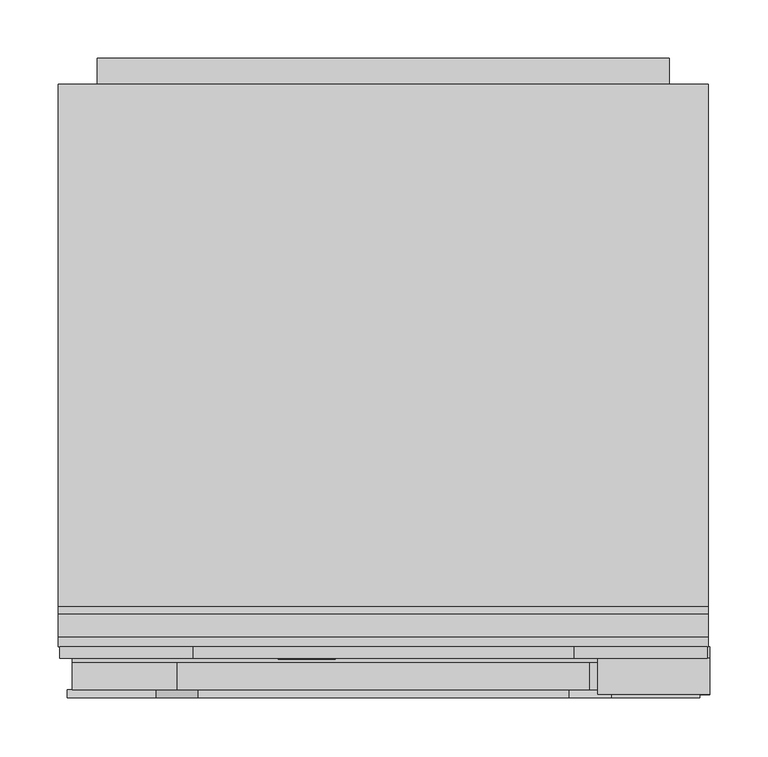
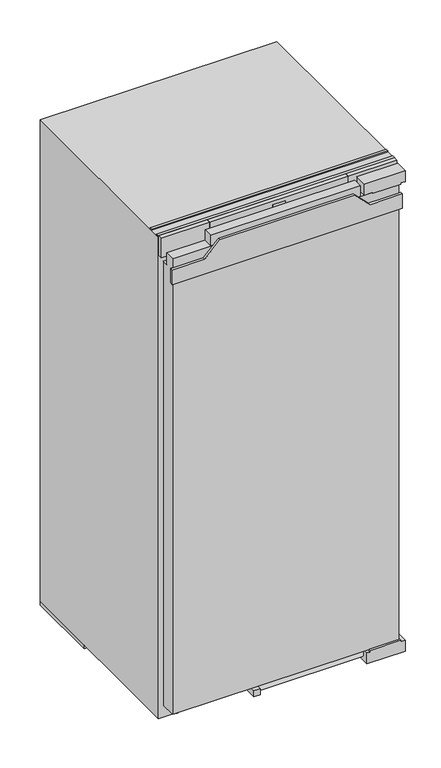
"""IFC4 building model written with IfcOpenShell, lengths in millimetres: proxy geometry, 12443730_EU1_K7347C : 36734700_EU1_12443730_K7347C."""

from ifc_helpers import new_model, si_unit, point, frame, frame_2d, origin, origin_with_axes, place, context, project, spatial, polyline, circle_curve, ellipse_curve, trimmed, segment, composite_curve, outline, extrude, faceted_brep, source, transform, mapped, element, save
from ifc_brep_helpers import plane_surface, cylinder_surface, revolved_surface, extruded_surface, advanced_brep


def specialty_equipment_ab32d752(model_context):
    return source(origin(), model_context, "Body", "SolidModel", [
        extrude(outline(polyline([(1174.0, 203.5), (1174.0, 269.5), (1177.0, 269.5), (1177.0, 279.5), (1204.0, 279.5), (1204.0, 183.5), (1177.0, 183.5), (1177.0, 203.5), (1174.0, 203.5)])), frame((0.0, 3.0, 0.0), z_axis=(0.0, 1.0, 0.0), x_axis=(0.0, 0.0, 1.0)), (0.0, 0.0, 1.0), 31.0),
        extrude(outline(polyline([(34.0, 189.5), (7.0, 189.5), (7.0, 279.5), (34.0, 279.5), (34.0, 268.5), (38.0, 268.5), (38.0, 195.5), (34.0, 195.5), (34.0, 189.5)])), frame((0.0, 3.0, 0.0), z_axis=(0.0, 1.0, 0.0), x_axis=(0.0, 0.0, 1.0)), (0.0, 0.0, 1.0), 41.0),
        extrude(outline(polyline([(7.0, 38.0), (7.0, 1174.0), (30.0, 1174.0), (30.0, 1145.0), (44.0, 1145.0), (44.0, 38.0), (7.0, 38.0)])), frame((-266.5, 0.0, 0.0), z_axis=(1.0, 0.0, 0.0), x_axis=(0.0, 1.0, 0.0)), (0.0, 0.0, 1.0), 533.0),
        extrude(outline(polyline([(176.5, 7.0), (-176.5, 7.0), (-176.5, 30.0), (176.5, 30.0), (176.5, 7.0)])), frame((0.0, 0.0, 1174.0), z_axis=(0.0, 0.0, 1.0), x_axis=(1.0, 0.0, 0.0)), (0.0, 0.0, 1.0), 26.0),
        extrude(outline(polyline([(1115.0, 271.0), (1151.0, 271.0), (1151.0, 195.0), (1187.0, 159.0), (1187.0, -159.0), (1151.0, -195.0), (1151.0, -271.0), (1115.0, -271.0), (1115.0, 271.0)])), frame((0.0, 0.0, 0.0), z_axis=(0.0, 1.0, 0.0), x_axis=(0.0, 0.0, 1.0)), (0.0, 0.0, 1.0), 7.0),
        extrude(outline(polyline([(-74.0, 42.0), (-59.0, 42.0), (-59.0, 8.0), (-74.0, 8.0), (-74.0, 42.0)])), frame((0.0, 0.0, 14.0), z_axis=(0.0, 0.0, 1.0), x_axis=(1.0, 0.0, 0.0)), (0.0, 0.0, 1.0), 15.0),
        extrude(outline(composite_curve([segment(trimmed(circle_curve(frame_2d((-65.5, 25.0)), 6.5), [point((-72.0, 25.0))], [point((-59.0, 25.0))], False, "CARTESIAN"), True, "CONTINUOUS"), segment(trimmed(circle_curve(frame_2d((-65.5, 25.0)), 6.5), [point((-59.0, 25.0))], [point((-72.0, 25.0))], False, "CARTESIAN"), True, "CONTINUOUS")], self_intersect=False)), frame((0.0, 0.0, 29.0), z_axis=(0.0, 0.0, 1.0), x_axis=(1.0, 0.0, 0.0)), (0.0, 0.0, 1.0), 9.0),
        extrude(outline(composite_curve([segment(trimmed(circle_curve(frame_2d((25.0, 23.0)), 9.0), [point((25.0, 14.0))], [point((25.0, 32.0))], False, "CARTESIAN"), True, "CONTINUOUS"), segment(trimmed(circle_curve(frame_2d((25.0, 23.0)), 9.0), [point((25.0, 32.0))], [point((25.0, 14.0))], False, "CARTESIAN"), True, "CONTINUOUS")], self_intersect=False)), frame((-59.0, 0.0, 0.0), z_axis=(1.0, 0.0, 0.0), x_axis=(0.0, 1.0, 0.0)), (0.0, 0.0, 1.0), 248.5),
        advanced_brep(
        [(-46.64, 33.0, 1184.896), (-46.64, 33.0, 1185.704), (-41.288, 33.0, 1185.704), (-50.6, 33.0, 1185.704), (-48.4, 33.0, 1183.0), (-41.424, 33.0, 1184.896), (-43.84, 33.0, 1184.896), (-45.744, 33.0, 1184.0), (-46.64, 33.0, 1186.728), (-46.64, 33.0, 1187.6), (-45.272, 33.0, 1187.6), (-45.272, 33.0, 1186.728), (-46.64, 34.0, 1184.896), (-45.744, 34.0, 1184.0), (-43.84, 34.0, 1184.896), (-41.424, 34.0, 1184.896), (-48.4, 34.0, 1183.0), (-50.6, 34.0, 1185.704), (-41.288, 34.0, 1185.704), (-46.64, 34.0, 1185.704), (-46.64, 34.0, 1186.728), (-45.272, 34.0, 1186.728), (-45.272, 34.0, 1187.6), (-46.64, 34.0, 1187.6)],
        [
            (0, 1),
            (1, 2),
            (2, 3, ellipse_curve(frame((-45.944, 33.0, 1185.704), z_axis=(0.0, -1.0, 0.0), x_axis=(-1.0, 0.0, 0.0)), 4.656, 3.848)),
            (3, 4, circle_curve(frame((-47.5039564, 33.0, 1185.976), z_axis=(0.0, -1.0, 0.0), x_axis=(0.0, 0.0, -1.0)), 3.1079688)),
            (4, 5, circle_curve(frame((-46.0372064, 33.0, 1188.088), z_axis=(0.0, -1.0, 0.0), x_axis=(0.0, 0.0, -1.0)), 5.6098607)),
            (5, 6),
            (6, 7, circle_curve(frame((-45.3529412, 33.0, 1185.64), z_axis=(0.0, 1.0, 0.0), x_axis=(0.0, 0.0, -1.0)), 1.6859795)),
            (7, 0, circle_curve(frame((-45.744, 33.0, 1184.896), z_axis=(0.0, 1.0, 0.0), x_axis=(0.0, 0.0, -1.0)), 0.896)),
            (8, 9),
            (9, 10, circle_curve(frame((-45.956, 33.0, 1187.6), z_axis=(0.0, 1.0, 0.0), x_axis=(0.0, 0.0, -1.0)), 0.684)),
            (10, 11),
            (11, 8),
            (12, 13, circle_curve(frame((-45.744, 34.0, 1184.896), z_axis=(0.0, -1.0, 0.0), x_axis=(0.0, 0.0, -1.0)), 0.896)),
            (13, 14, circle_curve(frame((-45.3529412, 34.0, 1185.64), z_axis=(0.0, -1.0, 0.0), x_axis=(0.0, 0.0, -1.0)), 1.6859795)),
            (14, 15),
            (15, 16, circle_curve(frame((-46.0372064, 34.0, 1188.088), z_axis=(0.0, 1.0, 0.0), x_axis=(0.0, 0.0, -1.0)), 5.6098607)),
            (16, 17, circle_curve(frame((-47.5039564, 34.0, 1185.976), z_axis=(0.0, 1.0, 0.0), x_axis=(0.0, 0.0, -1.0)), 3.1079688)),
            (17, 18, ellipse_curve(frame((-45.944, 34.0, 1185.704), z_axis=(0.0, 1.0, 0.0), x_axis=(-1.0, 0.0, 0.0)), 4.656, 3.848)),
            (18, 19),
            (19, 12),
            (20, 21),
            (21, 22),
            (22, 23, circle_curve(frame((-45.956, 34.0, 1187.6), z_axis=(0.0, -1.0, 0.0), x_axis=(0.0, 0.0, -1.0)), 0.684)),
            (23, 20),
            (0, 12),
            (19, 1),
            (18, 2),
            (5, 15),
            (14, 6),
            (17, 3),
            (13, 7),
            (16, 4),
            (8, 20),
            (23, 9),
            (22, 10),
            (21, 11),
        ],
        [
            plane_surface(frame((-46.64, 33.0, 1185.704), z_axis=(0.0, -1.0, 0.0), x_axis=(0.0, 0.0, 1.0))),
            plane_surface(frame((-46.64, 34.0, 1185.704), z_axis=(0.0, 1.0, 0.0), x_axis=(0.0, 0.0, -1.0))),
            plane_surface(frame((-46.64, 33.0, 1184.896), z_axis=(1.0, 0.0, 0.0), x_axis=(0.0, 1.0, 0.0))),
            plane_surface(frame((-46.64, 33.0, 1185.704), z_axis=(0.0, 0.0, -1.0), x_axis=(0.0, 1.0, 0.0))),
            plane_surface(frame((-41.424, 33.0, 1184.896), z_axis=(0.0, 0.0, 1.0), x_axis=(0.0, 1.0, 0.0))),
            extruded_surface(trimmed(ellipse_curve(frame((-45.944, 35.0, 1185.704), z_axis=(0.0, -1.0, 0.0), x_axis=(-1.0, 0.0, 0.0)), 4.656, 3.848), [point((-41.288, 35.0, 1185.704))], [point((-50.6, 35.0, 1185.704))], True, "CARTESIAN"), (0.0, -1.0, 0.0), 1.0),
            revolved_surface(polyline([(-45.3529412, 34.0, 1183.9540205), (-45.3529412, 33.0, 1183.9540205)]), (-45.3529412, 34.0, 1185.64), (0.0, 1.0, 0.0)),
            revolved_surface(polyline([(-45.744, 34.0, 1184.0), (-45.744, 33.0, 1184.0)]), (-45.744, 34.0, 1184.896), (0.0, 1.0, 0.0)),
            cylinder_surface(frame((-47.5039564, 34.0, 1185.976), z_axis=(0.0, -1.0, 0.0), x_axis=(0.0, 0.0, -1.0)), 3.1079688),
            cylinder_surface(frame((-46.0372064, 34.0, 1188.088), z_axis=(0.0, -1.0, 0.0), x_axis=(0.0, 0.0, -1.0)), 5.6098607),
            plane_surface(frame((-46.64, 33.0, 1186.728), z_axis=(1.0, 0.0, 0.0), x_axis=(0.0, 1.0, 0.0))),
            revolved_surface(polyline([(-45.956, 34.0, 1186.916), (-45.956, 33.0, 1186.916)]), (-45.956, 34.0, 1187.6), (0.0, 1.0, 0.0)),
            plane_surface(frame((-45.272, 33.0, 1187.6), z_axis=(-1.0, 0.0, 0.0), x_axis=(0.0, 1.0, 0.0))),
            plane_surface(frame((-45.272, 33.0, 1186.728), z_axis=(0.0, 0.0, 1.0), x_axis=(0.0, 1.0, 0.0))),
        ],
        [
            (0, [[1, 2, 3, 4, 5, 6, 7, 8], [9, 10, 11, 12]]),
            (1, [[13, 14, 15, 16, 17, 18, 19, 20], [21, 22, 23, 24]]),
            (2, [[-1, 25, -20, 26]]),
            (3, [[-2, -26, -19, 27]]),
            (4, [[-6, 28, -15, 29]]),
            (5, [[-3, -27, -18, 30]]),
            (6, [[-7, -29, -14, 31]]),
            (7, [[-8, -31, -13, -25]]),
            (8, [[-4, -30, -17, 32]]),
            (9, [[-5, -32, -16, -28]]),
            (10, [[-9, 33, -24, 34]]),
            (11, [[-10, -34, -23, 35]]),
            (12, [[-11, -35, -22, 36]]),
            (13, [[-12, -36, -21, -33]]),
        ],
    ),
        advanced_brep(
        [(-63.336, 33.0, 1184.896), (-63.336, 33.0, 1185.704), (-57.984, 33.0, 1185.704), (-67.296, 33.0, 1185.704), (-65.096, 33.0, 1183.0), (-58.12, 33.0, 1184.896), (-60.536, 33.0, 1184.896), (-62.44, 33.0, 1184.0), (-63.336, 33.0, 1186.728), (-63.336, 33.0, 1187.6), (-61.968, 33.0, 1187.6), (-61.968, 33.0, 1186.728), (-63.336, 34.0, 1184.896), (-62.44, 34.0, 1184.0), (-60.536, 34.0, 1184.896), (-58.12, 34.0, 1184.896), (-65.096, 34.0, 1183.0), (-67.296, 34.0, 1185.704), (-57.984, 34.0, 1185.704), (-63.336, 34.0, 1185.704), (-63.336, 34.0, 1186.728), (-61.968, 34.0, 1186.728), (-61.968, 34.0, 1187.6), (-63.336, 34.0, 1187.6)],
        [
            (0, 1),
            (1, 2),
            (2, 3, ellipse_curve(frame((-62.64, 33.0, 1185.704), z_axis=(0.0, -1.0, 0.0), x_axis=(-1.0, 0.0, 0.0)), 4.656, 3.848)),
            (3, 4, circle_curve(frame((-64.1999564, 33.0, 1185.976), z_axis=(0.0, -1.0, 0.0), x_axis=(0.0, 0.0, -1.0)), 3.1079688)),
            (4, 5, circle_curve(frame((-62.7332064, 33.0, 1188.088), z_axis=(0.0, -1.0, 0.0), x_axis=(0.0, 0.0, -1.0)), 5.6098607)),
            (5, 6),
            (6, 7, circle_curve(frame((-62.0489412, 33.0, 1185.64), z_axis=(0.0, 1.0, 0.0), x_axis=(0.0, 0.0, -1.0)), 1.6859795)),
            (7, 0, circle_curve(frame((-62.44, 33.0, 1184.896), z_axis=(0.0, 1.0, 0.0), x_axis=(0.0, 0.0, -1.0)), 0.896)),
            (8, 9),
            (9, 10, circle_curve(frame((-62.652, 33.0, 1187.6), z_axis=(0.0, 1.0, 0.0), x_axis=(0.0, 0.0, -1.0)), 0.684)),
            (10, 11),
            (11, 8),
            (12, 13, circle_curve(frame((-62.44, 34.0, 1184.896), z_axis=(0.0, -1.0, 0.0), x_axis=(0.0, 0.0, -1.0)), 0.896)),
            (13, 14, circle_curve(frame((-62.0489412, 34.0, 1185.64), z_axis=(0.0, -1.0, 0.0), x_axis=(0.0, 0.0, -1.0)), 1.6859795)),
            (14, 15),
            (15, 16, circle_curve(frame((-62.7332064, 34.0, 1188.088), z_axis=(0.0, 1.0, 0.0), x_axis=(0.0, 0.0, -1.0)), 5.6098607)),
            (16, 17, circle_curve(frame((-64.1999564, 34.0, 1185.976), z_axis=(0.0, 1.0, 0.0), x_axis=(0.0, 0.0, -1.0)), 3.1079688)),
            (17, 18, ellipse_curve(frame((-62.64, 34.0, 1185.704), z_axis=(0.0, 1.0, 0.0), x_axis=(-1.0, 0.0, 0.0)), 4.656, 3.848)),
            (18, 19),
            (19, 12),
            (20, 21),
            (21, 22),
            (22, 23, circle_curve(frame((-62.652, 34.0, 1187.6), z_axis=(0.0, -1.0, 0.0), x_axis=(0.0, 0.0, -1.0)), 0.684)),
            (23, 20),
            (0, 12),
            (19, 1),
            (18, 2),
            (5, 15),
            (14, 6),
            (17, 3),
            (13, 7),
            (16, 4),
            (8, 20),
            (23, 9),
            (22, 10),
            (21, 11),
        ],
        [
            plane_surface(frame((-63.336, 33.0, 1185.704), z_axis=(0.0, -1.0, 0.0), x_axis=(0.0, 0.0, 1.0))),
            plane_surface(frame((-63.336, 34.0, 1185.704), z_axis=(0.0, 1.0, 0.0), x_axis=(0.0, 0.0, -1.0))),
            plane_surface(frame((-63.336, 33.0, 1184.896), z_axis=(1.0, 0.0, 0.0), x_axis=(0.0, 1.0, 0.0))),
            plane_surface(frame((-63.336, 33.0, 1185.704), z_axis=(0.0, 0.0, -1.0), x_axis=(0.0, 1.0, 0.0))),
            plane_surface(frame((-58.12, 33.0, 1184.896), z_axis=(0.0, 0.0, 1.0), x_axis=(0.0, 1.0, 0.0))),
            extruded_surface(trimmed(ellipse_curve(frame((-62.64, 35.0, 1185.704), z_axis=(0.0, -1.0, 0.0), x_axis=(-1.0, 0.0, 0.0)), 4.656, 3.848), [point((-57.984, 35.0, 1185.704))], [point((-67.296, 35.0, 1185.704))], True, "CARTESIAN"), (0.0, -1.0, 0.0), 1.0),
            revolved_surface(polyline([(-62.0489412, 34.0, 1183.9540205), (-62.0489412, 33.0, 1183.9540205)]), (-62.0489412, 34.0, 1185.64), (0.0, 1.0, 0.0)),
            revolved_surface(polyline([(-62.44, 34.0, 1184.0), (-62.44, 33.0, 1184.0)]), (-62.44, 34.0, 1184.896), (0.0, 1.0, 0.0)),
            cylinder_surface(frame((-64.1999564, 34.0, 1185.976), z_axis=(0.0, -1.0, 0.0), x_axis=(0.0, 0.0, -1.0)), 3.1079688),
            cylinder_surface(frame((-62.7332064, 34.0, 1188.088), z_axis=(0.0, -1.0, 0.0), x_axis=(0.0, 0.0, -1.0)), 5.6098607),
            plane_surface(frame((-63.336, 33.0, 1186.728), z_axis=(1.0, 0.0, 0.0), x_axis=(0.0, 1.0, 0.0))),
            revolved_surface(polyline([(-62.652, 34.0, 1186.916), (-62.652, 33.0, 1186.916)]), (-62.652, 34.0, 1187.6), (0.0, 1.0, 0.0)),
            plane_surface(frame((-61.968, 33.0, 1187.6), z_axis=(-1.0, 0.0, 0.0), x_axis=(0.0, 1.0, 0.0))),
            plane_surface(frame((-61.968, 33.0, 1186.728), z_axis=(0.0, 0.0, 1.0), x_axis=(0.0, 1.0, 0.0))),
        ],
        [
            (0, [[1, 2, 3, 4, 5, 6, 7, 8], [9, 10, 11, 12]]),
            (1, [[13, 14, 15, 16, 17, 18, 19, 20], [21, 22, 23, 24]]),
            (2, [[-1, 25, -20, 26]]),
            (3, [[-2, -26, -19, 27]]),
            (4, [[-6, 28, -15, 29]]),
            (5, [[-3, -27, -18, 30]]),
            (6, [[-7, -29, -14, 31]]),
            (7, [[-8, -31, -13, -25]]),
            (8, [[-4, -30, -17, 32]]),
            (9, [[-5, -32, -16, -28]]),
            (10, [[-9, 33, -24, 34]]),
            (11, [[-10, -34, -23, 35]]),
            (12, [[-11, -35, -22, 36]]),
            (13, [[-12, -36, -21, -33]]),
        ],
    ),
        extrude(outline(polyline([(1190.528, -72.08), (1189.232, -71.472), (1190.496, -68.76), (1191.792, -69.36), (1190.528, -72.08)])), frame((0.0, 33.0, 0.0), z_axis=(0.0, 1.0, 0.0), x_axis=(0.0, 0.0, 1.0)), (0.0, 0.0, 1.0), 1.0),
        extrude(outline(polyline([(1189.056, -74.056), (1187.624, -74.056), (1187.624, -73.104), (1184.344, -73.104), (1184.344, -74.056), (1183.0, -74.056), (1183.0, -67.744), (1184.344, -67.744), (1184.344, -68.672), (1189.056, -68.672), (1189.056, -74.056)])), frame((0.0, 33.0, 0.0), z_axis=(0.0, 1.0, 0.0), x_axis=(0.0, 0.0, 1.0)), (0.0, 0.0, 1.0), 1.0),
        extrude(outline(polyline([(1189.696, -57.536), (1189.696, -56.576), (1184.344, -56.576), (1184.344, -57.536), (1183.0, -57.536), (1183.0, -51.048), (1184.344, -51.048), (1184.344, -52.032), (1191.0, -52.032), (1191.0, -57.536), (1189.696, -57.536)])), frame((0.0, 33.0, 0.0), z_axis=(0.0, 1.0, 0.0), x_axis=(0.0, 0.0, 1.0)), (0.0, 0.0, 1.0), 1.0),
        extrude(outline(polyline([(1189.696, -90.0), (1189.696, -89.032), (1184.344, -89.032), (1184.344, -90.0), (1183.0, -90.0), (1183.0, -86.48), (1184.344, -86.48), (1184.344, -87.44), (1187.7471247, -87.44), (1183.0, -83.864), (1187.8152223, -80.272), (1184.344, -80.272), (1184.344, -81.256), (1183.0, -81.256), (1183.0, -74.872), (1184.344, -74.872), (1184.344, -75.888), (1189.696, -75.888), (1189.696, -74.872), (1191.0, -74.872), (1191.0, -79.744), (1188.0, -82.08), (1191.0, -84.424), (1191.0, -90.0), (1189.696, -90.0)])), frame((0.0, 33.0, 0.0), z_axis=(0.0, 1.0, 0.0), x_axis=(0.0, 0.0, 1.0)), (0.0, 0.0, 1.0), 1.0),
        extrude(outline(polyline([(-15.0, 35.0), (15.0, 35.0), (15.0, 34.0), (-15.0, 34.0), (-15.0, 35.0)])), frame((0.0, 0.0, 1173.0), z_axis=(0.0, 0.0, 1.0), x_axis=(1.0, 0.0, 0.0)), (0.0, 0.0, 1.0), 30.0),
        extrude(outline(polyline([(-277.5, 44.0), (-163.5, 44.0), (-163.5, 34.0), (-277.5, 34.0), (-277.5, 44.0)])), frame((0.0, 0.0, 1163.0), z_axis=(0.0, 0.0, 1.0), x_axis=(1.0, 0.0, 0.0)), (0.0, 0.0, 1.0), 49.0),
        extrude(outline(polyline([(163.5, 44.0), (277.5, 44.0), (277.5, 34.0), (163.5, 34.0), (163.5, 44.0)])), frame((0.0, 0.0, 1163.0), z_axis=(0.0, 0.0, 1.0), x_axis=(1.0, 0.0, 0.0)), (0.0, 0.0, 1.0), 49.0),
        faceted_brep([(163.5, 34.0, 1212.0), (-163.5, 34.0, 1212.0), (-163.5, 34.0, 1163.0), (163.5, 34.0, 1163.0), (15.0, 34.0, 1203.0), (15.0, 34.0, 1173.0), (-15.0, 34.0, 1173.0), (-15.0, 34.0, 1203.0), (163.5, 44.0, 1212.0), (163.5, 44.0, 1163.0), (-163.5, 44.0, 1163.0), (-163.5, 44.0, 1212.0), (15.0, 35.0, 1203.0), (-15.0, 35.0, 1203.0), (-15.0, 35.0, 1173.0), (15.0, 35.0, 1173.0)], [[[0, 1, 2, 3], [4, 5, 6, 7]], [[8, 9, 10, 11]], [[0, 3, 9, 8]], [[3, 2, 10, 9]], [[2, 1, 11, 10]], [[1, 0, 8, 11]], [[12, 13, 14, 15]], [[12, 15, 5, 4]], [[15, 14, 6, 5]], [[14, 13, 7, 6]], [[13, 12, 4, 7]]]),
        faceted_brep([(278.5, 526.0, 1209.0), (-278.5, 526.0, 1209.0), (-278.5, 44.0, 1209.0), (278.5, 44.0, 1209.0), (278.5, 526.0, 9.0), (278.5, 44.0, 9.0), (-278.5, 44.0, 9.0), (-278.5, 526.0, 9.0), (233.5, 44.0, 62.0), (-233.5, 44.0, 62.0), (-233.5, 44.0, 64.0), (-233.5, 44.0, 570.0), (-233.5, 44.0, 1134.0), (233.5, 44.0, 1134.0), (233.5, 44.0, 570.0), (233.5, 44.0, 64.0), (233.5, 488.0, 1134.0), (-233.5, 488.0, 1134.0), (-233.5, 488.0, 570.0), (-233.5, 488.0, 64.0), (-233.5, 488.0, 62.0), (233.5, 488.0, 62.0), (233.5, 488.0, 64.0), (233.5, 488.0, 570.0)], [[[0, 1, 2, 3]], [[4, 5, 6, 7]], [[1, 0, 4, 7]], [[2, 1, 7, 6]], [[3, 2, 6, 5], [8, 9, 10, 11, 12, 13, 14, 15]], [[0, 3, 5, 4]], [[16, 17, 18, 19, 20, 21, 22, 23]], [[21, 8, 15, 14, 13, 16, 23, 22]], [[21, 20, 9, 8]], [[9, 20, 19, 18, 17, 12, 11, 10]], [[17, 16, 13, 12]]]),
        extrude(outline(polyline([(278.5, 52.0), (278.5, 44.0), (-278.5, 44.0), (-278.5, 52.0), (278.5, 52.0)])), frame((0.0, 0.0, 1209.0), z_axis=(0.0, 0.0, 1.0), x_axis=(1.0, 0.0, 0.0)), (0.0, 0.0, 1.0), 3.0),
        extrude(outline(polyline([(278.5, 78.0), (278.5, 72.0), (-278.5, 72.0), (-278.5, 78.0), (278.5, 78.0)])), frame((0.0, 0.0, 1209.0), z_axis=(0.0, 0.0, 1.0), x_axis=(1.0, 0.0, 0.0)), (0.0, 0.0, 1.0), 3.0),
        extrude(outline(polyline([(278.5, 526.0), (278.5, 346.0), (-278.5, 346.0), (-278.5, 526.0), (278.5, 526.0)])), origin_with_axes(), (0.0, 0.0, 1.0), 9.0),
        extrude(outline(composite_curve([segment(trimmed(circle_curve(frame_2d((228.0, 64.0)), 11.0), [point((239.0, 64.0))], [point((217.0, 64.0))], False, "CARTESIAN"), True, "CONTINUOUS"), segment(trimmed(circle_curve(frame_2d((228.0, 64.0)), 11.0), [point((217.0, 64.0))], [point((239.0, 64.0))], False, "CARTESIAN"), True, "CONTINUOUS")], self_intersect=False)), origin_with_axes(), (0.0, 0.0, 1.0), 9.0),
        extrude(outline(composite_curve([segment(trimmed(circle_curve(frame_2d((-228.0, 64.0)), 11.0), [point((-217.0, 64.0))], [point((-239.0, 64.0))], False, "CARTESIAN"), True, "CONTINUOUS"), segment(trimmed(circle_curve(frame_2d((-228.0, 64.0)), 11.0), [point((-239.0, 64.0))], [point((-217.0, 64.0))], False, "CARTESIAN"), True, "CONTINUOUS")], self_intersect=False)), origin_with_axes(), (0.0, 0.0, 1.0), 9.0),
        extrude(outline(polyline([(-233.5, 350.0), (-233.5, 488.0), (233.5, 488.0), (233.5, 350.0), (-233.5, 350.0)])), frame((0.0, 0.0, 62.0), z_axis=(0.0, 0.0, 1.0), x_axis=(1.0, 0.0, 0.0)), (0.0, 0.0, 1.0), 188.0),
        extrude(outline(polyline([(-233.5, 44.0), (-233.5, 488.0), (233.5, 488.0), (233.5, 44.0), (-233.5, 44.0)])), frame((0.0, 0.0, 477.0), z_axis=(0.0, 0.0, 1.0), x_axis=(1.0, 0.0, 0.0)), (0.0, 0.0, 1.0), 3.0),
        extrude(outline(polyline([(-34.0, 44.0), (34.0, 44.0), (34.0, 35.0), (-34.0, 35.0), (-34.0, 44.0)])), frame((0.0, 0.0, 13.0), z_axis=(0.0, 0.0, 1.0), x_axis=(1.0, 0.0, 0.0)), (0.0, 0.0, 1.0), 19.0),
        advanced_brep(
        [(232.0, 526.0, 145.0), (217.0, 526.0, 145.0), (232.0, 547.5, 145.0), (217.0, 532.5, 145.0), (194.5, 547.5, 145.0), (194.5, 532.5, 145.0)],
        [
            (0, 1, circle_curve(frame((224.5, 526.0, 145.0), z_axis=(0.0, -1.0, 0.0), x_axis=(-1.0, 0.0, 0.0)), 7.5)),
            (1, 0, circle_curve(frame((224.5, 526.0, 145.0), z_axis=(0.0, -1.0, 0.0), x_axis=(-1.0, 0.0, 0.0)), 7.5)),
            (0, 2),
            (2, 3, ellipse_curve(frame((224.5, 540.0, 145.0), z_axis=(0.7071067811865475, -0.7071067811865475, 0.0), x_axis=(-0.7071067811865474, -0.7071067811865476, 0.0)), 10.6066017, 7.5)),
            (3, 1),
            (3, 2, ellipse_curve(frame((224.5, 540.0, 145.0), z_axis=(0.7071067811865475, -0.7071067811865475, 0.0), x_axis=(-0.7071067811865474, -0.7071067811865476, 0.0)), 10.6066017, 7.5)),
            (4, 5, circle_curve(frame((194.5, 540.0, 145.0), z_axis=(-1.0, 0.0, 0.0), x_axis=(0.0, -1.0, 0.0)), 7.5)),
            (5, 4, circle_curve(frame((194.5, 540.0, 145.0), z_axis=(-1.0, 0.0, 0.0), x_axis=(0.0, -1.0, 0.0)), 7.5)),
            (2, 4),
            (5, 3),
        ],
        [
            plane_surface(frame((224.5, 526.0, 145.0), z_axis=(0.0, -1.0, 0.0), x_axis=(0.0, 0.0, 1.0))),
            cylinder_surface(frame((224.5, 526.0, 145.0), z_axis=(0.0, -1.0, 0.0), x_axis=(-1.0, 0.0, 0.0)), 7.5),
            plane_surface(frame((194.5, 540.0, 145.0), z_axis=(-1.0, 0.0, 0.0), x_axis=(0.0, 0.0, 1.0))),
            cylinder_surface(frame((224.5, 540.0, 145.0), z_axis=(1.0, 0.0, 0.0), x_axis=(0.0, -1.0, 0.0)), 7.5),
        ],
        [
            (0, [[1, 2]]),
            (1, [[-1, 3, 4, 5]]),
            (1, [[-2, -5, 6, -3]]),
            (2, [[7, 8]]),
            (3, [[-4, 9, -8, 10]]),
            (3, [[-6, -10, -7, -9]]),
        ],
    ),
        extrude(outline(polyline([(539.651012, 148.8988246), (539.651012, 150.150839), (546.8850603, 150.150839), (546.8850603, 140.1043073), (539.5027529, 140.1043073), (539.5027529, 141.3585545), (545.6152499, 141.3585545), (545.6152499, 144.6556887), (539.967462, 144.6556887), (539.967462, 145.9162842), (545.6270824, 145.9162842), (545.6270824, 148.8988246), (539.651012, 148.8988246)])), frame((193.5, 0.0, 0.0), z_axis=(1.0, 0.0, 0.0), x_axis=(0.0, 1.0, 0.0)), (0.0, 0.0, 1.0), 1.0),
        extrude(outline(polyline([(537.624075, 150.150839), (537.624075, 140.1043073), (531.3334819, 140.1043073), (531.3334819, 141.3573374), (536.3334819, 141.3573374), (536.3334819, 150.150839), (537.624075, 150.150839)])), frame((193.5, 0.0, 0.0), z_axis=(1.0, 0.0, 0.0), x_axis=(0.0, 1.0, 0.0)), (0.0, 0.0, 1.0), 1.0),
        extrude(outline(polyline([(-144.9049535, 93.0), (-174.0, 93.0), (-194.5002931, 346.0), (-165.4052466, 346.0), (-144.9049535, 93.0)])), origin_with_axes(), (0.0, 0.0, 1.0), 9.0),
        extrude(outline(polyline([(147.7868487, 93.0), (165.4177409, 346.0), (194.4880722, 346.0), (176.8571801, 93.0), (147.7868487, 93.0)])), origin_with_axes(), (0.0, 0.0, 1.0), 9.0),
        extrude(outline(polyline([(1136.0, -245.0), (27.0, -245.0), (27.0, 245.0), (130.0, 245.0), (130.0, 180.0), (160.0, 180.0), (160.0, 245.0), (1136.0, 245.0), (1136.0, -245.0)])), frame((0.0, 526.0, 0.0), z_axis=(0.0, 1.0, 0.0), x_axis=(0.0, 0.0, 1.0)), (0.0, 0.0, 1.0), 22.0),
    ])


if __name__ == "__main__":
    model = new_model("IFC4")
    model_context = context("Model", 3, world=origin())
    ifc_project = project(units=[si_unit("LENGTHUNIT", "METRE", prefix="MILLI")], contexts=[model_context])
    site = spatial("IfcSite", under=ifc_project)
    building = spatial("IfcBuilding", under=site)
    placement = place(None, origin())
    specialty_equipment_shape = specialty_equipment_ab32d752(model_context)
    element("IfcBuildingElementProxy", 1, Name="12443730_EU1_K7347C : 36734700_EU1_12443730_K7347C", ObjectType="12443730_EU1_K7347C : 36734700_EU1_12443730_K7347C", at=placement, inside=building, context=model_context, shape_type="MappedRepresentation", body=[
        mapped(specialty_equipment_shape, transform((0.0, 0.0, 0.0), x_axis=(1.0, 0.0, 0.0), y_axis=(0.0, 1.0, 0.0), z_axis=(0.0, 0.0, 1.0))),
    ])
    save(model, "model.ifc")
